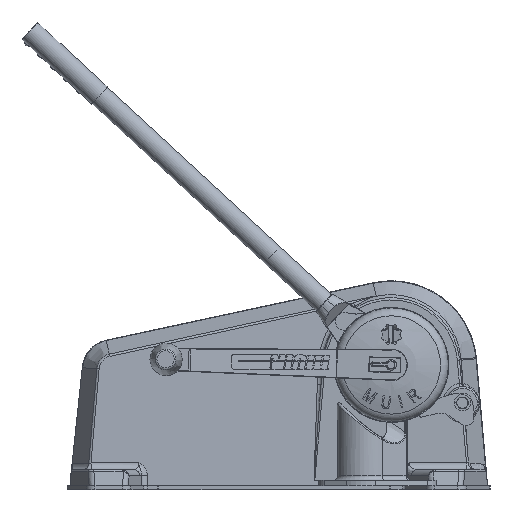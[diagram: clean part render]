
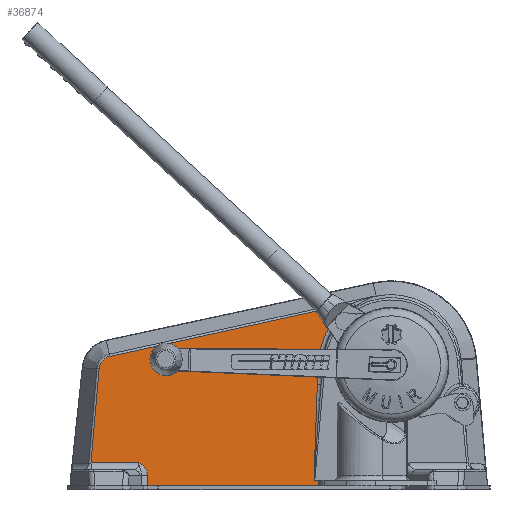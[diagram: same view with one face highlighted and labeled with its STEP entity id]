
A CAD part, front view. The second image highlights one B-rep face of the part: STEP entity #36874.
In plain terms, the highlighted planar face has unit normal (0, -0.999, 0.035).
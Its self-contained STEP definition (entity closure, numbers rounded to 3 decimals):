
#553=PLANE('',#40026);
#1357=ELLIPSE('',#40027,230.141,8.);
#2866=B_SPLINE_CURVE_WITH_KNOTS('',3,(#78214,#78215,#78216,#78217,#78218,
#78219,#78220,#78221,#78222,#78223,#78224,#78225,#78226,#78227,#78228,#78229,
#78230,#78231),.UNSPECIFIED.,.F.,.F.,(4,1,1,1,1,1,1,1,1,1,1,1,1,2,4),(-1.809,
-1.628,-1.447,-1.266,-1.085,-0.995,
-0.904,-0.814,-0.723,-0.543,-0.362,
-0.181,-0.09,0.,0.002),
 .UNSPECIFIED.);
#2868=B_SPLINE_CURVE_WITH_KNOTS('',3,(#78258,#78259,#78260,#78261,#78262,
#78263),.UNSPECIFIED.,.F.,.F.,(4,1,1,4),(-7.876,-4.501,
-2.25,0.),.UNSPECIFIED.);
#2869=B_SPLINE_CURVE_WITH_KNOTS('',3,(#78267,#78268,#78269,#78270,#78271,
#78272),.UNSPECIFIED.,.F.,.F.,(4,1,1,4),(9.95,10.809,
11.382,11.955),.UNSPECIFIED.);
#4539=FACE_OUTER_BOUND('',#6806,.T.);
#6806=EDGE_LOOP('',(#29415,#29416,#29417,#29418,#29419,#29420,#29421,#29422,
#29423,#29424,#29425,#29426));
#10108=LINE('',#74612,#12408);
#10362=LINE('',#78071,#12662);
#10364=LINE('',#78122,#12664);
#10365=LINE('',#78252,#12665);
#10366=LINE('',#78256,#12666);
#10367=LINE('',#78265,#12667);
#10368=LINE('',#78274,#12668);
#10369=LINE('',#78275,#12669);
#12408=VECTOR('',#46095,10.);
#12662=VECTOR('',#47003,10.);
#12664=VECTOR('',#47013,10.);
#12665=VECTOR('',#47016,10.);
#12666=VECTOR('',#47019,10.);
#12667=VECTOR('',#47020,10.);
#12668=VECTOR('',#47021,10.);
#12669=VECTOR('',#47022,10.);
#15655=VERTEX_POINT('',#74609);
#15656=VERTEX_POINT('',#74611);
#16141=VERTEX_POINT('',#77941);
#16143=VERTEX_POINT('',#78118);
#16145=VERTEX_POINT('',#78213);
#16146=VERTEX_POINT('',#78251);
#16147=VERTEX_POINT('',#78253);
#16148=VERTEX_POINT('',#78255);
#16149=VERTEX_POINT('',#78257);
#16150=VERTEX_POINT('',#78264);
#16151=VERTEX_POINT('',#78266);
#16152=VERTEX_POINT('',#78273);
#20258=EDGE_CURVE('',#15655,#15656,#10108,.F.);
#20858=EDGE_CURVE('',#16141,#15655,#10362,.T.);
#20863=EDGE_CURVE('',#15656,#16143,#10364,.T.);
#20864=EDGE_CURVE('',#16143,#16145,#2866,.T.);
#20866=EDGE_CURVE('',#16146,#16141,#10365,.T.);
#20867=EDGE_CURVE('',#16147,#16146,#1357,.T.);
#20868=EDGE_CURVE('',#16148,#16147,#10366,.T.);
#20869=EDGE_CURVE('',#16149,#16148,#2868,.T.);
#20870=EDGE_CURVE('',#16150,#16149,#10367,.T.);
#20871=EDGE_CURVE('',#16151,#16150,#2869,.T.);
#20872=EDGE_CURVE('',#16152,#16151,#10368,.T.);
#20873=EDGE_CURVE('',#16145,#16152,#10369,.T.);
#29415=ORIENTED_EDGE('',*,*,#20858,.F.);
#29416=ORIENTED_EDGE('',*,*,#20866,.F.);
#29417=ORIENTED_EDGE('',*,*,#20867,.F.);
#29418=ORIENTED_EDGE('',*,*,#20868,.F.);
#29419=ORIENTED_EDGE('',*,*,#20869,.F.);
#29420=ORIENTED_EDGE('',*,*,#20870,.F.);
#29421=ORIENTED_EDGE('',*,*,#20871,.F.);
#29422=ORIENTED_EDGE('',*,*,#20872,.F.);
#29423=ORIENTED_EDGE('',*,*,#20873,.F.);
#29424=ORIENTED_EDGE('',*,*,#20864,.F.);
#29425=ORIENTED_EDGE('',*,*,#20863,.F.);
#29426=ORIENTED_EDGE('',*,*,#20258,.F.);
#36874=ADVANCED_FACE('',(#4539),#553,.F.);
#40026=AXIS2_PLACEMENT_3D('',#78250,#47014,#47015);
#40027=AXIS2_PLACEMENT_3D('',#78254,#47017,#47018);
#46095=DIRECTION('',(1.,0.,0.));
#47003=DIRECTION('',(0.02,-0.035,-0.999));
#47013=DIRECTION('',(0.013,0.035,0.999));
#47014=DIRECTION('center_axis',(0.,0.999,
-0.035));
#47015=DIRECTION('ref_axis',(0.,0.035,0.999));
#47016=DIRECTION('',(1.,0.,0.));
#47017=DIRECTION('center_axis',(0.,-0.999,
0.035));
#47018=DIRECTION('ref_axis',(-0.089,-0.035,-0.995));
#47019=DIRECTION('',(-0.068,-0.035,-0.997));
#47020=DIRECTION('',(0.977,0.007,0.214));
#47021=DIRECTION('',(0.086,0.035,0.996));
#47022=DIRECTION('',(-1.,0.,0.));
#74609=CARTESIAN_POINT('',(260.581,-78.605,-82.598));
#74611=CARTESIAN_POINT('',(-29.294,-78.605,-82.598));
#74612=CARTESIAN_POINT('',(22.54,-78.605,-82.598));
#77941=CARTESIAN_POINT('',(260.465,-78.403,-76.822));
#78071=CARTESIAN_POINT('',(259.575,-76.862,-32.689));
#78118=CARTESIAN_POINT('',(-29.145,-78.195,-70.876));
#78122=CARTESIAN_POINT('',(-28.649,-76.834,-31.883));
#78213=CARTESIAN_POINT('',(-38.773,-77.707,-56.878));
#78214=CARTESIAN_POINT('Ctrl Pts',(-29.145,-78.195,
-70.876));
#78215=CARTESIAN_POINT('Ctrl Pts',(-29.137,-78.174,
-70.273));
#78216=CARTESIAN_POINT('Ctrl Pts',(-29.194,-78.132,-69.061));
#78217=CARTESIAN_POINT('Ctrl Pts',(-29.497,-78.069,
-67.256));
#78218=CARTESIAN_POINT('Ctrl Pts',(-30.012,-78.008,
-65.513));
#78219=CARTESIAN_POINT('Ctrl Pts',(-30.609,-77.96,
-64.125));
#78220=CARTESIAN_POINT('Ctrl Pts',(-31.19,-77.922,
-63.055));
#78221=CARTESIAN_POINT('Ctrl Pts',(-31.673,-77.895,
-62.283));
#78222=CARTESIAN_POINT('Ctrl Pts',(-32.203,-77.869,
-61.541));
#78223=CARTESIAN_POINT('Ctrl Pts',(-32.964,-77.837,-60.605));
#78224=CARTESIAN_POINT('Ctrl Pts',(-34.027,-77.799,
-59.522));
#78225=CARTESIAN_POINT('Ctrl Pts',(-35.472,-77.759,
-58.391));
#78226=CARTESIAN_POINT('Ctrl Pts',(-36.784,-77.733,
-57.633));
#78227=CARTESIAN_POINT('Ctrl Pts',(-37.893,-77.716,-57.155));
#78228=CARTESIAN_POINT('Ctrl Pts',(-38.467,-77.71,
-56.964));
#78229=CARTESIAN_POINT('Ctrl Pts',(-38.763,-77.707,
-56.881));
#78230=CARTESIAN_POINT('Ctrl Pts',(-38.768,-77.707,
-56.879));
#78231=CARTESIAN_POINT('Ctrl Pts',(-38.773,-77.707,
-56.878));
#78250=CARTESIAN_POINT('Origin',(126.927,-75.234,13.928));
#78251=CARTESIAN_POINT('',(161.177,-78.403,-76.822));
#78252=CARTESIAN_POINT('',(187.582,-78.403,-76.822));
#78253=CARTESIAN_POINT('',(164.075,-74.594,32.268));
#78254=CARTESIAN_POINT('Origin',(181.631,-70.403,152.268));
#78255=CARTESIAN_POINT('',(165.958,-73.623,60.063));
#78256=CARTESIAN_POINT('',(159.95,-76.721,-28.645));
#78257=CARTESIAN_POINT('',(205.241,-71.36,124.858));
#78258=CARTESIAN_POINT('Ctrl Pts',(205.241,-71.36,124.858));
#78259=CARTESIAN_POINT('Ctrl Pts',(195.641,-71.565,118.993));
#78260=CARTESIAN_POINT('Ctrl Pts',(181.68,-72.022,105.901));
#78261=CARTESIAN_POINT('Ctrl Pts',(169.533,-72.844,82.36));
#78262=CARTESIAN_POINT('Ctrl Pts',(166.464,-73.362,67.542));
#78263=CARTESIAN_POINT('Ctrl Pts',(165.958,-73.623,60.063));
#78264=CARTESIAN_POINT('',(-71.371,-73.478,64.209));
#78265=CARTESIAN_POINT('',(18.087,-72.793,83.823));
#78266=CARTESIAN_POINT('',(-83.727,-73.97,50.132));
#78267=CARTESIAN_POINT('Ctrl Pts',(-83.727,-73.97,
50.132));
#78268=CARTESIAN_POINT('Ctrl Pts',(-83.477,-73.87,52.984));
#78269=CARTESIAN_POINT('Ctrl Pts',(-81.738,-73.708,57.614));
#78270=CARTESIAN_POINT('Ctrl Pts',(-76.811,-73.545,
62.291));
#78271=CARTESIAN_POINT('Ctrl Pts',(-73.236,-73.493,
63.797));
#78272=CARTESIAN_POINT('Ctrl Pts',(-71.371,-73.478,
64.209));
#78273=CARTESIAN_POINT('',(-92.952,-77.707,-56.878));
#78274=CARTESIAN_POINT('',(-84.767,-74.391,38.063));
#78275=CARTESIAN_POINT('',(22.54,-77.707,-56.878));
